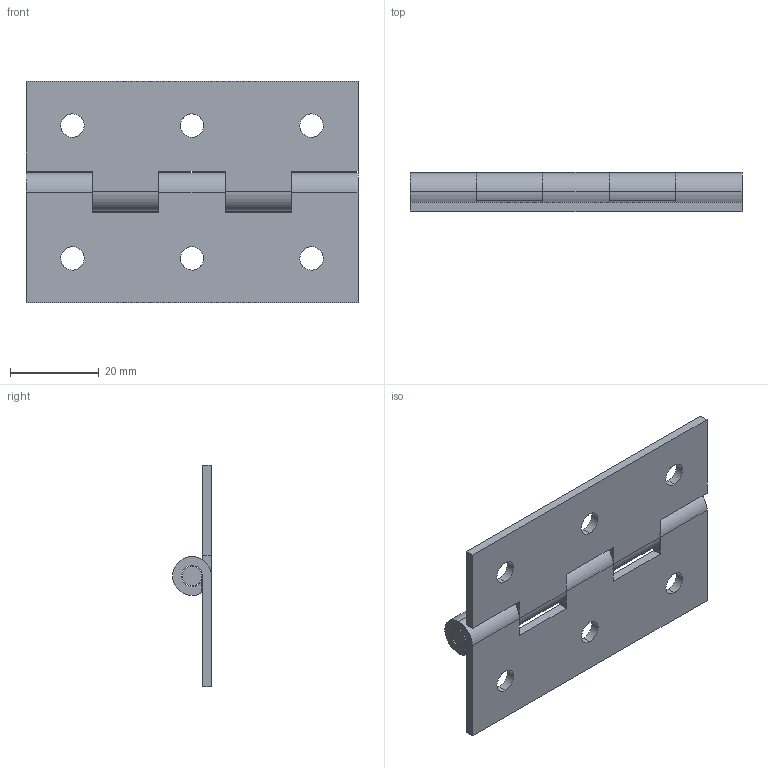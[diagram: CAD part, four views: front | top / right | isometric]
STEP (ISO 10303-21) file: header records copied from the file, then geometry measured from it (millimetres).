
FILE_DESCRIPTION (( 'STEP AP203' ), '1' );
FILE_NAME ('B18-18784.STEP', '2024-10-24T09:22:40', ( '' ), ( '' ), 'SwSTEP 2.0', 'SolidWorks 2021', '' );
FILE_SCHEMA (( 'CONFIG_CONTROL_DESIGN' ));
Length unit declared in the file: millimetre
Products named in the file (4): B18-18784; B18-107814-2; B18-4.5-75; B18-107814-1
Assembly tree (3 placements, depth 2):
  B18-18784
    B18-4.5-75
    B18-107814-1
    B18-107814-2
Bounding box: 75 x 8.8 x 50.01 mm (x, y, z)
Volume: 10504.2 mm3; surface area: 11915.5 mm2
Topology: 3 solids, 3 shells, 79 faces, 219 edges, 146 vertices
Faces by surface type: cylinder 44, plane 35
Entity records: 2987 total; most frequent: CARTESIAN_POINT 486, DIRECTION 453, ORIENTED_EDGE 438, EDGE_CURVE 219, AXIS2_PLACEMENT_3D 161, VERTEX_POINT 146, VECTOR 131, LINE 131
